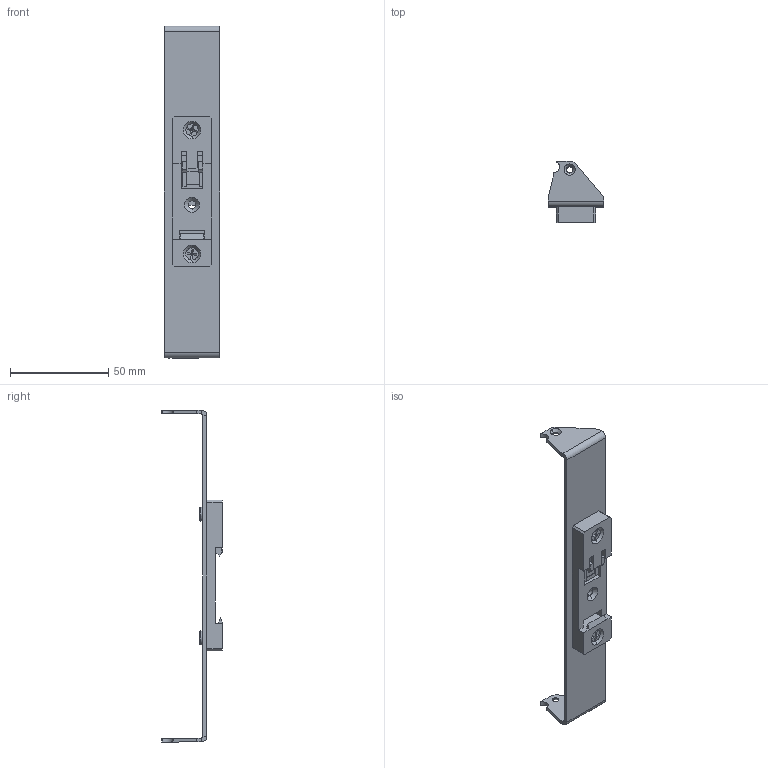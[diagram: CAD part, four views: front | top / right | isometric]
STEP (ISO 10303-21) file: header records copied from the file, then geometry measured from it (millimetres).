
FILE_DESCRIPTION (( 'STEP AP214' ), '1' );
FILE_NAME ('BRV160 assembly.STEP', '2024-02-07T16:06:33', ( '' ), ( '' ), 'SwSTEP 2.0', 'SolidWorks 2016', '' );
FILE_SCHEMA (( 'AUTOMOTIVE_DESIGN' ));
Length unit declared in the file: inch
Products named in the file (15): BRV160; Clamp mechanism; 6-32 PEM Nut; flat head screw_ai; Pusher; BRV160 assembly; flat head screw_ai_CR-FHMS 0.138-32x0.375x0.375-N; spring
Assembly tree (8 placements, depth 2):
  BRV160
  Clamp mechanism
  flat head screw_ai
  6-32 PEM Nut
  Pusher
Bounding box: 28 x 31 x 168.8 mm (x, y, z)
Volume: 18920.7 mm3; surface area: 18188.4 mm2
Topology: 8 solids, 8 shells, 251 faces, 630 edges, 398 vertices
Faces by surface type: plane 154, cylinder 69, cone 14, torus 8, bspline 6
Entity records: 7545 total; most frequent: CARTESIAN_POINT 2036, ORIENTED_EDGE 1064, DIRECTION 1048, EDGE_CURVE 532, VECTOR 398, LINE 398, VERTEX_POINT 338, AXIS2_PLACEMENT_3D 325
